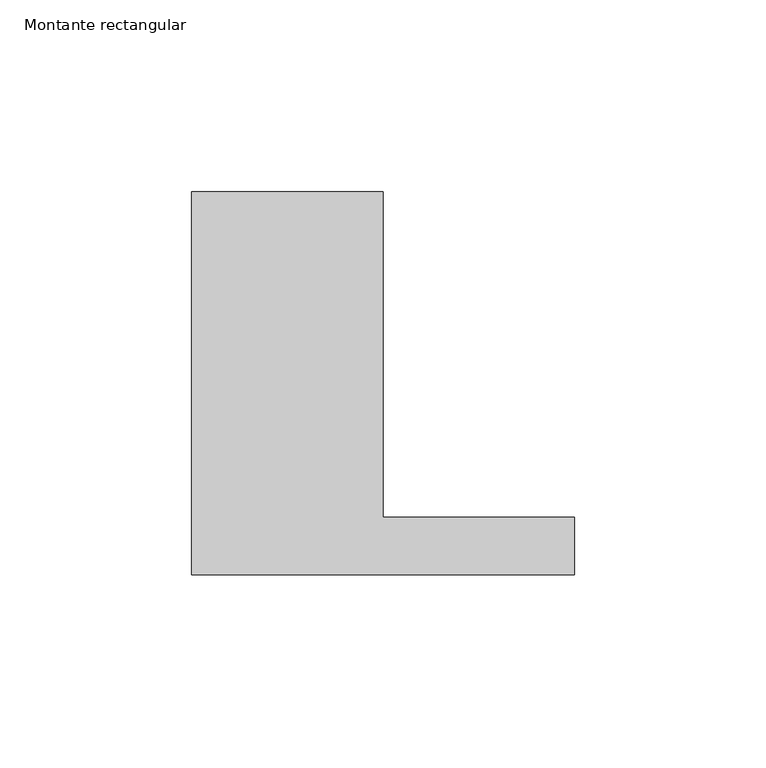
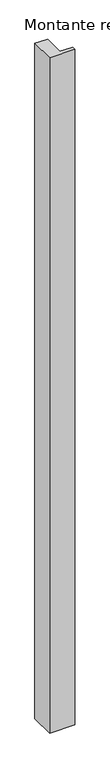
"""IFC4 building model written with IfcOpenShell, lengths in millimetres: member geometry, Montante rectangular : Montante rectangular (encuentro pilares) 5 x 10 cm."""

import ifcopenshell
import ifcopenshell.guid

model = None  # the IFC model being written
_history = None  # IfcOwnerHistory: only IFC2X3 demands one
_inside = {}  # id of a spatial element -> (the spatial element, [elements in it])
_under = {}  # id of a project, library or spatial element -> (it, [spatial elements below it])
_declared = {}  # id of a project -> (the project, [libraries it declares])
_typed = {}  # id of a type object -> (the type object, [elements of that type])
_made_of = {}  # id of a material, layer set ... -> (it, [elements and type objects made of it])


def new_model(schema):
    """Start an empty IFC model of exactly this schema.

    Asked for "IFC4X3", IfcOpenShell would pick the latest addendum, in which some entities
    have other attributes; the version numbers below select the first issue.
    IFC2X3 requires an IfcOwnerHistory on every rooted entity: one is made here for all.
    """
    global model, _history
    if schema == "IFC4X3":
        model = ifcopenshell.file(schema_version=(4, 3, 0, 0))
    else:
        model = ifcopenshell.file(schema=schema)
    _inside.clear()
    _under.clear()
    _declared.clear()
    _typed.clear()
    _made_of.clear()
    _history = None
    if model.schema == "IFC2X3":
        org = make("IfcOrganization", Name="unknown")
        user = make(
            "IfcPersonAndOrganization",
            ThePerson=make("IfcPerson", FamilyName="unknown"),
            TheOrganization=org,
        )
        app = make(
            "IfcApplication",
            ApplicationDeveloper=org,
            Version="unknown",
            ApplicationFullName="unknown",
            ApplicationIdentifier="unknown",
        )
        _history = make(
            "IfcOwnerHistory",
            OwningUser=user,
            OwningApplication=app,
            ChangeAction="ADDED",
            CreationDate=0,
        )
    return model


def make(cls, **values):
    """One entity of the class cls with the attributes given. An attribute that is None is left unset."""
    return model.create_entity(
        cls, **{name: value for name, value in values.items() if value is not None}
    )


def rooted(cls, **values):
    """An entity with a GlobalId (a new one), such as an element, a storey or a relation."""
    return make(cls, GlobalId=ifcopenshell.guid.new(), OwnerHistory=_history, **values)


def si_unit(unit_type, name, prefix=None):
    """IfcSIUnit, for example si_unit("LENGTHUNIT", "METRE", prefix="MILLI")."""
    return make("IfcSIUnit", UnitType=unit_type, Prefix=prefix, Name=name)


def assignment(units):
    """IfcUnitAssignment: the units of a project."""
    return None if units is None else make("IfcUnitAssignment", Units=units)


def point(xyz):
    """IfcCartesianPoint."""
    return None if xyz is None else make("IfcCartesianPoint", Coordinates=xyz)


def direction(xyz):
    """IfcDirection."""
    return None if xyz is None else make("IfcDirection", DirectionRatios=xyz)


def frame(location, z_axis=None, x_axis=None):
    """IfcAxis2Placement3D, a coordinate frame: its origin and axes. An axis left out is left unset."""
    return make(
        "IfcAxis2Placement3D",
        Location=point(location),
        Axis=direction(z_axis),
        RefDirection=direction(x_axis),
    )


def origin():
    """The frame at (0, 0, 0) with its axes left unset."""
    return frame((0.0, 0.0, 0.0))


def place(relative_to, where):
    """IfcLocalPlacement: puts the frame where relative to a parent placement (None: the world)."""
    return make(
        "IfcLocalPlacement", PlacementRelTo=relative_to, RelativePlacement=where
    )


def context(
    kind, dimensions, precision=None, world=None, true_north=None, identifier=None
):
    """IfcGeometricRepresentationContext, for example the 3D "Model" context."""
    return make(
        "IfcGeometricRepresentationContext",
        ContextIdentifier=identifier,
        ContextType=kind,
        CoordinateSpaceDimension=dimensions,
        Precision=precision,
        WorldCoordinateSystem=world,
        TrueNorth=true_north,
    )


def project(units=None, contexts=None):
    """IfcProject with its units and contexts."""
    return rooted(
        "IfcProject",
        Name="project",
        RepresentationContexts=contexts,
        UnitsInContext=assignment(units),
    )


def spatial(cls, under=None, at=None, **own):
    """A site, building, storey or space (cls), placed at a placement, below another one or the project."""
    s = rooted(cls, ObjectPlacement=at, **own)
    if under is not None:
        _under.setdefault(under.id(), (under, []))[1].append(s)
    return s


def polyline(points):
    """IfcPolyline through the points."""
    return make("IfcPolyline", Points=[point(p) for p in points])


def outline(outer, holes=None, kind="AREA"):
    """IfcArbitraryClosedProfileDef: a profile drawn as a closed curve; with holes, ...WithVoids."""
    if holes is None:
        return make("IfcArbitraryClosedProfileDef", ProfileType=kind, OuterCurve=outer)
    return make(
        "IfcArbitraryProfileDefWithVoids",
        ProfileType=kind,
        OuterCurve=outer,
        InnerCurves=holes,
    )


def extrude(swept, where, along, depth):
    """IfcExtrudedAreaSolid: the profile swept, set in the frame where, extruded along a direction by depth."""
    return make(
        "IfcExtrudedAreaSolid",
        SweptArea=swept,
        Position=where,
        ExtrudedDirection=direction(along),
        Depth=depth,
    )


def shape(context_of_items, identifier, shape_type, items):
    """IfcShapeRepresentation: the items that make up one representation, for example the "Body"."""
    return make(
        "IfcShapeRepresentation",
        ContextOfItems=context_of_items,
        RepresentationIdentifier=identifier,
        RepresentationType=shape_type,
        Items=items,
    )


def source(mapping_origin, context_of_items, identifier, shape_type, items):
    """IfcRepresentationMap: a shape defined once, which mapped items show again and again."""
    return make(
        "IfcRepresentationMap",
        MappingOrigin=mapping_origin,
        MappedRepresentation=shape(context_of_items, identifier, shape_type, items),
    )


def transform(
    local_origin,
    x_axis=None,
    y_axis=None,
    z_axis=None,
    scale=None,
    scale2=None,
    scale3=None,
    uniform=True,
):
    """IfcCartesianTransformationOperator3D, or its non-uniform kind. x_axis, y_axis, z_axis: its Axis1, 2, 3."""
    if uniform:
        return make(
            "IfcCartesianTransformationOperator3D",
            Axis1=direction(x_axis),
            Axis2=direction(y_axis),
            LocalOrigin=point(local_origin),
            Scale=scale,
            Axis3=direction(z_axis),
        )
    return make(
        "IfcCartesianTransformationOperator3DnonUniform",
        Axis1=direction(x_axis),
        Axis2=direction(y_axis),
        LocalOrigin=point(local_origin),
        Scale=scale,
        Axis3=direction(z_axis),
        Scale2=scale2,
        Scale3=scale3,
    )


def mapped(mapping_source, mapping_target):
    """IfcMappedItem: shows the shape of a source again, moved by a transform."""
    return make(
        "IfcMappedItem", MappingSource=mapping_source, MappingTarget=mapping_target
    )


def made_of(thing, what):
    """Note that an element or type object is made of a material, layer set ...; save() writes the relation."""
    if what is not None:
        _made_of.setdefault(what.id(), (what, []))[1].append(thing)
    return thing


def element(
    cls,
    number,
    at=None,
    inside=None,
    cuts=None,
    type_object=None,
    material=None,
    context=None,
    identifier="Body",
    shape_type=None,
    held_by="IfcProductDefinitionShape",
    body=None,
    shapes=None,
    **own,
):
    """One element of the class cls, such as IfcWall. Its Tag is "e" and its number.

    at: its placement. inside: the storey or other place that contains it. cuts: it is an
    opening in that element (IfcRelVoidsElement). A single representation is given by context,
    identifier, shape_type and body (its items); several are given by shapes. held_by: the class
    of the entity that holds the representations. save() writes the other relations.
    """
    e = rooted(cls, Tag="e%d" % number, ObjectPlacement=at, **own)
    if body is not None:
        shapes = [shape(context, identifier, shape_type, body)]
    if shapes is not None:
        e.Representation = make(held_by, Representations=shapes)
    if inside is not None:
        _inside.setdefault(inside.id(), (inside, []))[1].append(e)
    if cuts is not None:
        rooted(
            "IfcRelVoidsElement", RelatingBuildingElement=cuts, RelatedOpeningElement=e
        )
    if type_object is not None:
        _typed.setdefault(type_object.id(), (type_object, []))[1].append(e)
    return made_of(e, material)


def aggregate(whole, parts):
    """IfcRelAggregates: a whole, such as a stair, and the parts it consists of."""
    return rooted("IfcRelAggregates", RelatingObject=whole, RelatedObjects=parts)


def save(model, path):
    """Write the relations noted so far, then the file.

    IfcRelAggregates (storeys below a building ...), IfcRelContainedInSpatialStructure (elements
    in a storey), IfcRelDefinesByType, IfcRelAssociatesMaterial and IfcRelDeclares: one each for
    every whole, place, type object, material and project.
    """
    for whole, parts in _under.values():
        aggregate(whole, parts)
    for where, things in _inside.values():
        rooted(
            "IfcRelContainedInSpatialStructure",
            RelatedElements=things,
            RelatingStructure=where,
        )
    for kind, things in _typed.values():
        rooted("IfcRelDefinesByType", RelatedObjects=things, RelatingType=kind)
    for what, things in _made_of.values():
        rooted("IfcRelAssociatesMaterial", RelatedObjects=things, RelatingMaterial=what)
    for by, libraries in _declared.values():
        rooted("IfcRelDeclares", RelatingContext=by, RelatedDefinitions=libraries)
    model.write(path)


def montante_rectangular_636dfbc0(model_context):
    return source(origin(), model_context, "Body", "SweptSolid", [
        extrude(outline(polyline([(0.0, -50.0), (-100.0, -50.0), (-100.0, 50.0), (-50.0, 50.0), (-50.0, -35.0), (0.0, -35.0), (0.0, -50.0)])), frame((0.0, 0.0, -2820.0), z_axis=(0.0, 0.0, 1.0), x_axis=(1.0, 0.0, 0.0)), (0.0, 0.0, 1.0), 2820.0),
    ])


if __name__ == "__main__":
    model = new_model("IFC4")
    model_context = context("Model", 3, world=origin())
    ifc_project = project(units=[si_unit("LENGTHUNIT", "METRE", prefix="MILLI")], contexts=[model_context])
    site = spatial("IfcSite", under=ifc_project)
    building = spatial("IfcBuilding", under=site)
    placement = place(None, origin())
    montante_rectangular_shape = montante_rectangular_636dfbc0(model_context)
    element("IfcMember", 1, ObjectType="Montante rectangular : Montante rectangular (encuentro pilares) 5 x 10 cm", at=placement, inside=building, context=model_context, shape_type="MappedRepresentation", body=[
        mapped(montante_rectangular_shape, transform((0.0, 0.0, 0.0), x_axis=(1.0, 0.0, 0.0), y_axis=(0.0, 1.0, 0.0), z_axis=(0.0, 0.0, 1.0))),
    ])
    save(model, "model.ifc")
